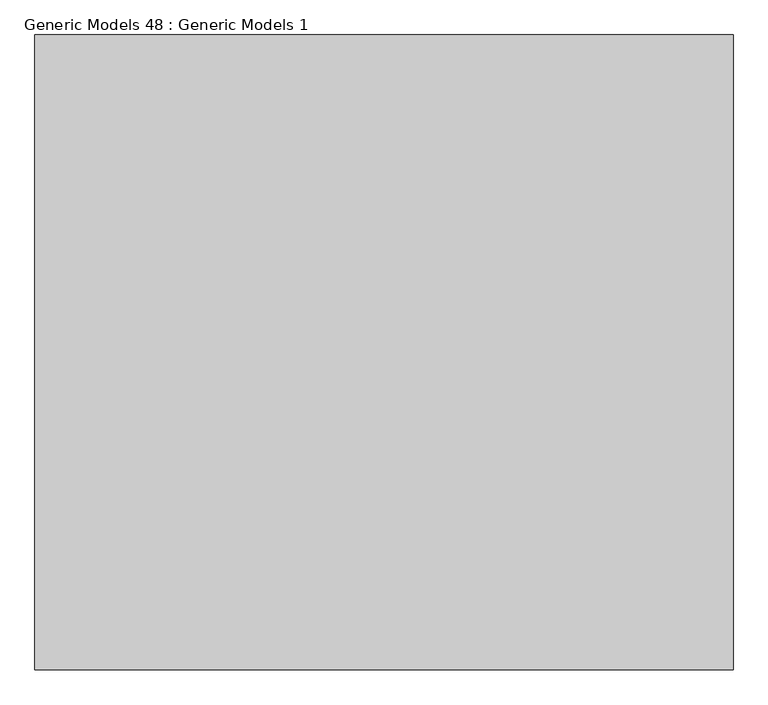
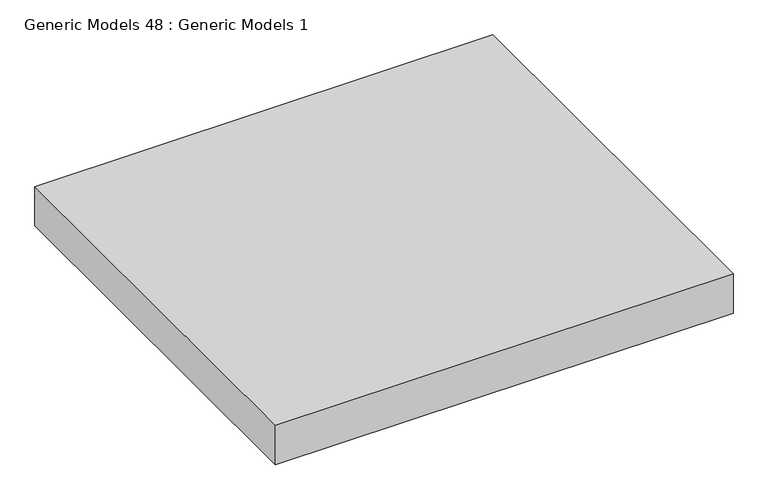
"""IFC4 building model written with IfcOpenShell, lengths in millimetres: proxy geometry, Generic Models 48 : Generic Models 1."""

from ifc_helpers import new_model, si_unit, origin, origin_with_axes, place, context, project, spatial, polyline, outline, extrude, source, transform, mapped, element, save


def generic_models_48_generic_models_1_82bed69a(model_context):
    return source(origin(), model_context, "Body", "SweptSolid", [
        extrude(outline(polyline([(-5138.7192967, -173.3596473), (-5138.7192967, 826.6403527), (-4038.7192967, 826.6403527), (-4038.7192967, -173.3596473), (-5138.7192967, -173.3596473)])), origin_with_axes(), (0.0, 0.0, 1.0), 100.0),
    ])


if __name__ == "__main__":
    model = new_model("IFC4")
    model_context = context("Model", 3, world=origin())
    ifc_project = project(units=[si_unit("LENGTHUNIT", "METRE", prefix="MILLI")], contexts=[model_context])
    site = spatial("IfcSite", under=ifc_project)
    building = spatial("IfcBuilding", under=site)
    placement = place(None, origin())
    generic_models_48_generic_models_1_shape = generic_models_48_generic_models_1_82bed69a(model_context)
    element("IfcBuildingElementProxy", 1, Name="Generic Models 48 : Generic Models 1", ObjectType="Generic Models 48 : Generic Models 1", at=placement, inside=building, context=model_context, shape_type="MappedRepresentation", body=[
        mapped(generic_models_48_generic_models_1_shape, transform((0.0, 0.0, 0.0), x_axis=(1.0, 0.0, 0.0), y_axis=(0.0, 1.0, 0.0), z_axis=(0.0, 0.0, 1.0))),
    ])
    save(model, "model.ifc")
